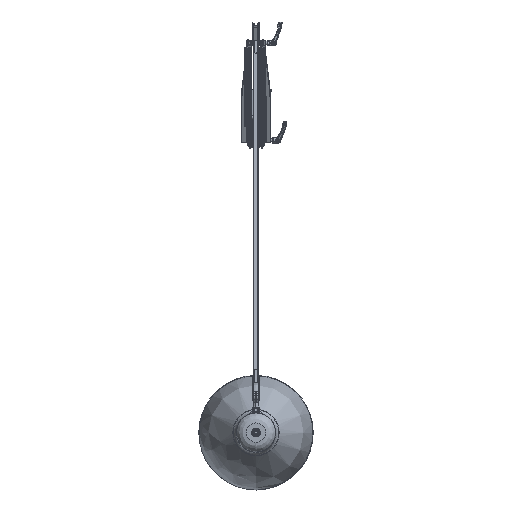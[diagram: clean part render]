
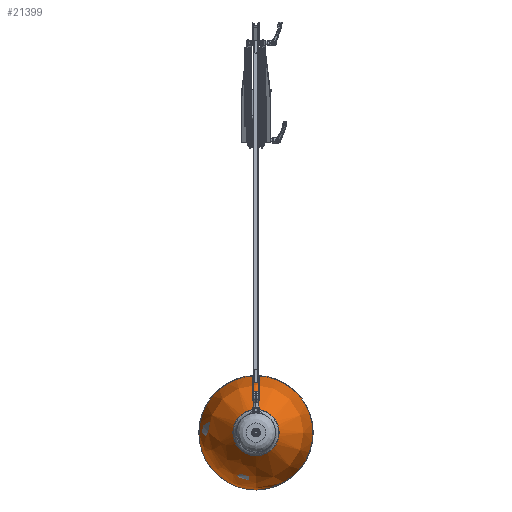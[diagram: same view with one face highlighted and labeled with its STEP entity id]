
A CAD part, top view. The second image highlights one B-rep face of the part: STEP entity #21399.
In plain terms, the highlighted free-form (B-spline) face has degree [2, 2] with [3, 9] control points.
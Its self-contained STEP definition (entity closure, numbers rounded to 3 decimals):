
#104=(
BOUNDED_SURFACE()
B_SPLINE_SURFACE(2,2,((#57813,#57814,#57815,#57816,#57817,#57818,#57819,
#57820,#57821),(#57822,#57823,#57824,#57825,#57826,#57827,#57828,#57829,
#57830),(#57831,#57832,#57833,#57834,#57835,#57836,#57837,#57838,#57839)),
 .UNSPECIFIED.,.F.,.T.,.F.)
B_SPLINE_SURFACE_WITH_KNOTS((3,3),(3,2,2,2,3),(0.042,0.772),
(-3.142,-1.571,0.,1.571,3.142),
 .UNSPECIFIED.)
GEOMETRIC_REPRESENTATION_ITEM()
RATIONAL_B_SPLINE_SURFACE(((1.,0.707,1.,0.707,1.,
0.707,1.,0.707,1.),(0.934,0.661,
0.934,0.661,0.934,0.661,
0.934,0.661,0.934),(1.,0.707,
1.,0.707,1.,0.707,1.,0.707,1.)))
REPRESENTATION_ITEM('')
SURFACE()
);
#1391=CIRCLE('',#23306,44.415);
#1392=CIRCLE('',#23307,44.415);
#1393=CIRCLE('',#23308,232.);
#1394=CIRCLE('',#23309,110.);
#1395=CIRCLE('',#23310,110.);
#3554=FACE_OUTER_BOUND('',#4866,.T.);
#4866=EDGE_LOOP('',(#18398,#18399,#18400,#18401,#18402,#18403));
#9739=VERTEX_POINT('',#57840);
#9740=VERTEX_POINT('',#57841);
#9741=VERTEX_POINT('',#57844);
#9742=VERTEX_POINT('',#57846);
#12721=EDGE_CURVE('',#9739,#9740,#1391,.T.);
#12722=EDGE_CURVE('',#9740,#9739,#1392,.T.);
#12723=EDGE_CURVE('',#9740,#9741,#1393,.T.);
#12724=EDGE_CURVE('',#9741,#9742,#1394,.T.);
#12725=EDGE_CURVE('',#9742,#9741,#1395,.T.);
#18398=ORIENTED_EDGE('',*,*,#12721,.F.);
#18399=ORIENTED_EDGE('',*,*,#12722,.F.);
#18400=ORIENTED_EDGE('',*,*,#12723,.T.);
#18401=ORIENTED_EDGE('',*,*,#12724,.T.);
#18402=ORIENTED_EDGE('',*,*,#12725,.T.);
#18403=ORIENTED_EDGE('',*,*,#12723,.F.);
#21399=ADVANCED_FACE('',(#3554),#104,.F.);
#23306=AXIS2_PLACEMENT_3D('',#57842,#28359,#28360);
#23307=AXIS2_PLACEMENT_3D('',#57843,#28361,#28362);
#23308=AXIS2_PLACEMENT_3D('',#57845,#28363,#28364);
#23309=AXIS2_PLACEMENT_3D('',#57847,#28365,#28366);
#23310=AXIS2_PLACEMENT_3D('',#57848,#28367,#28368);
#28359=DIRECTION('center_axis',(0.,0.,
1.));
#28360=DIRECTION('ref_axis',(0.,1.,0.));
#28361=DIRECTION('center_axis',(0.,0.,
1.));
#28362=DIRECTION('ref_axis',(0.,1.,0.));
#28363=DIRECTION('center_axis',(1.,0.,0.));
#28364=DIRECTION('ref_axis',(0.,-1.,0.));
#28365=DIRECTION('center_axis',(0.,0.,
1.));
#28366=DIRECTION('ref_axis',(0.,1.,0.));
#28367=DIRECTION('center_axis',(0.,0.,
1.));
#28368=DIRECTION('ref_axis',(0.,1.,0.));
#57813=CARTESIAN_POINT('Ctrl Pts',(-0.2,-772.058,
1126.411));
#57814=CARTESIAN_POINT('Ctrl Pts',(109.8,-772.058,1126.411));
#57815=CARTESIAN_POINT('Ctrl Pts',(109.8,-662.058,1126.411));
#57816=CARTESIAN_POINT('Ctrl Pts',(109.8,-552.058,1126.411));
#57817=CARTESIAN_POINT('Ctrl Pts',(-0.2,-552.058,
1126.411));
#57818=CARTESIAN_POINT('Ctrl Pts',(-110.2,-552.058,1126.411));
#57819=CARTESIAN_POINT('Ctrl Pts',(-110.2,-662.058,1126.411));
#57820=CARTESIAN_POINT('Ctrl Pts',(-110.2,-772.058,
1126.411));
#57821=CARTESIAN_POINT('Ctrl Pts',(-0.2,-772.058,
1126.411));
#57822=CARTESIAN_POINT('Ctrl Pts',(-0.2,-768.298,
1214.947));
#57823=CARTESIAN_POINT('Ctrl Pts',(106.04,-768.298,1214.947));
#57824=CARTESIAN_POINT('Ctrl Pts',(106.04,-662.058,1214.947));
#57825=CARTESIAN_POINT('Ctrl Pts',(106.04,-555.818,1214.947));
#57826=CARTESIAN_POINT('Ctrl Pts',(-0.2,-555.818,
1214.947));
#57827=CARTESIAN_POINT('Ctrl Pts',(-106.44,-555.818,
1214.947));
#57828=CARTESIAN_POINT('Ctrl Pts',(-106.44,-662.058,
1214.947));
#57829=CARTESIAN_POINT('Ctrl Pts',(-106.44,-768.298,
1214.947));
#57830=CARTESIAN_POINT('Ctrl Pts',(-0.2,-768.298,
1214.947));
#57831=CARTESIAN_POINT('Ctrl Pts',(-0.2,-706.472,
1278.431));
#57832=CARTESIAN_POINT('Ctrl Pts',(44.215,-706.472,1278.431));
#57833=CARTESIAN_POINT('Ctrl Pts',(44.215,-662.058,1278.431));
#57834=CARTESIAN_POINT('Ctrl Pts',(44.215,-617.643,1278.431));
#57835=CARTESIAN_POINT('Ctrl Pts',(-0.2,-617.643,
1278.431));
#57836=CARTESIAN_POINT('Ctrl Pts',(-44.615,-617.643,
1278.431));
#57837=CARTESIAN_POINT('Ctrl Pts',(-44.615,-662.058,
1278.431));
#57838=CARTESIAN_POINT('Ctrl Pts',(-44.615,-706.472,1278.431));
#57839=CARTESIAN_POINT('Ctrl Pts',(-0.2,-706.472,
1278.431));
#57840=CARTESIAN_POINT('',(-0.2,-617.643,1278.431));
#57841=CARTESIAN_POINT('',(-0.2,-706.472,1278.431));
#57842=CARTESIAN_POINT('Origin',(-0.2,-662.058,1278.431));
#57843=CARTESIAN_POINT('Origin',(-0.2,-662.058,1278.431));
#57844=CARTESIAN_POINT('',(-0.2,-772.058,1126.411));
#57845=CARTESIAN_POINT('Origin',(-0.2,-540.267,1116.568));
#57846=CARTESIAN_POINT('',(-0.2,-552.058,1126.411));
#57847=CARTESIAN_POINT('Origin',(-0.2,-662.058,1126.411));
#57848=CARTESIAN_POINT('Origin',(-0.2,-662.058,1126.411));
